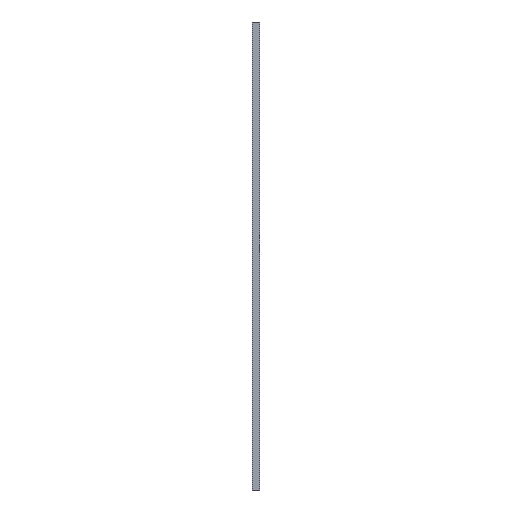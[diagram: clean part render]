
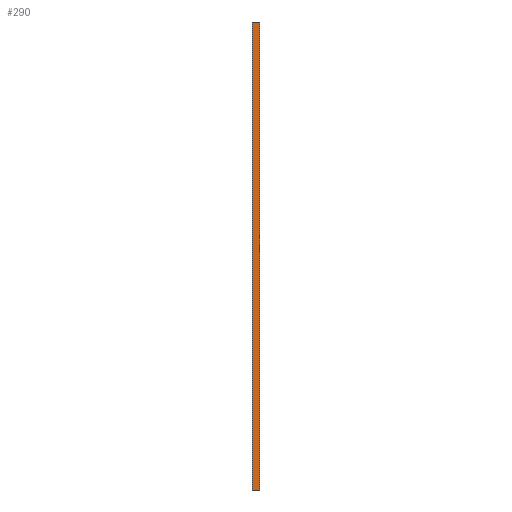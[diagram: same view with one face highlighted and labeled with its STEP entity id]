
A CAD part, left-side view. The second image highlights one B-rep face of the part: STEP entity #290.
In plain terms, the highlighted planar face has unit normal (-1, 0, 0).
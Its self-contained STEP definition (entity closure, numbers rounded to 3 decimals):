
#32 = EDGE_CURVE ( 'NONE', #1065, #396, #497, .T. ) ;
#93 = AXIS2_PLACEMENT_3D ( 'NONE', #224, #709, #197 ) ;
#99 = CARTESIAN_POINT ( 'NONE',  ( -601.5, 0., 150. ) ) ;
#160 = LINE ( 'NONE', #611, #633 ) ;
#195 = CARTESIAN_POINT ( 'NONE',  ( -601.5, -20., 150. ) ) ;
#197 = DIRECTION ( 'NONE',  ( 0., 0., 1. ) ) ;
#222 = ORIENTED_EDGE ( 'NONE', *, *, #32, .F. ) ;
#224 = CARTESIAN_POINT ( 'NONE',  ( -601.5, -20., -1050. ) ) ;
#241 = CARTESIAN_POINT ( 'NONE',  ( -601.5, 0., -1050. ) ) ;
#263 = CARTESIAN_POINT ( 'NONE',  ( -601.5, -20., -1050. ) ) ;
#290 = ADVANCED_FACE ( 'NONE', ( #318 ), #459, .T. ) ;
#308 = DIRECTION ( 'NONE',  ( 0., 0., 1. ) ) ;
#318 = FACE_OUTER_BOUND ( 'NONE', #893, .T. ) ;
#326 = DIRECTION ( 'NONE',  ( 0., 0., 1. ) ) ;
#338 = ORIENTED_EDGE ( 'NONE', *, *, #870, .T. ) ;
#375 = LINE ( 'NONE', #195, #684 ) ;
#396 = VERTEX_POINT ( 'NONE', #99 ) ;
#397 = LINE ( 'NONE', #1003, #399 ) ;
#399 = VECTOR ( 'NONE', #308, 1000. ) ;
#459 = PLANE ( 'NONE',  #93 ) ;
#464 = VECTOR ( 'NONE', #326, 1000. ) ;
#497 = LINE ( 'NONE', #241, #464 ) ;
#539 = CARTESIAN_POINT ( 'NONE',  ( -601.5, -20., 150. ) ) ;
#611 = CARTESIAN_POINT ( 'NONE',  ( -601.5, -20., -1050. ) ) ;
#633 = VECTOR ( 'NONE', #965, 1000. ) ;
#684 = VECTOR ( 'NONE', #1082, 1000. ) ;
#686 = VERTEX_POINT ( 'NONE', #539 ) ;
#689 = ORIENTED_EDGE ( 'NONE', *, *, #961, .F. ) ;
#707 = EDGE_CURVE ( 'NONE', #686, #396, #375, .T. ) ;
#709 = DIRECTION ( 'NONE',  ( -1., 0., 0. ) ) ;
#870 = EDGE_CURVE ( 'NONE', #1060, #686, #397, .T. ) ;
#893 = EDGE_LOOP ( 'NONE', ( #222, #689, #338, #904 ) ) ;
#904 = ORIENTED_EDGE ( 'NONE', *, *, #707, .T. ) ;
#938 = CARTESIAN_POINT ( 'NONE',  ( -601.5, 0., -1050. ) ) ;
#961 = EDGE_CURVE ( 'NONE', #1060, #1065, #160, .T. ) ;
#965 = DIRECTION ( 'NONE',  ( 0., 1., 0. ) ) ;
#1003 = CARTESIAN_POINT ( 'NONE',  ( -601.5, -20., -1050. ) ) ;
#1060 = VERTEX_POINT ( 'NONE', #263 ) ;
#1065 = VERTEX_POINT ( 'NONE', #938 ) ;
#1082 = DIRECTION ( 'NONE',  ( 0., 1., 0. ) ) ;
